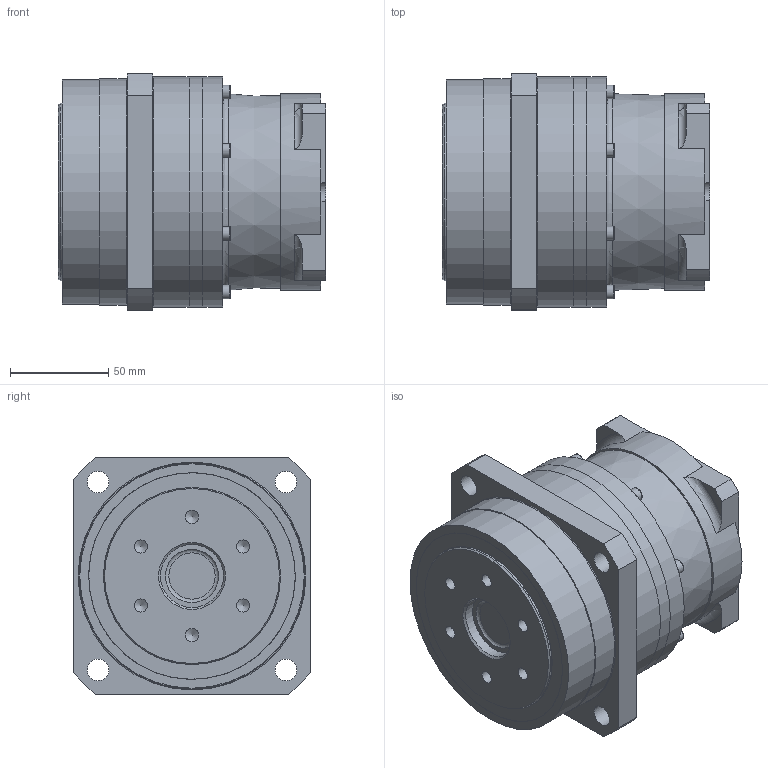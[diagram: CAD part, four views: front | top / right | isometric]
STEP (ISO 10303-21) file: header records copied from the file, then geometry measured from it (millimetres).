
FILE_DESCRIPTION(/* description */ ('ANFX-P130F-2-7S'),/* implementation_level */ '2;1');
FILE_NAME(/* name */ 'C:\Users\ADMINI~1\AppData\Local\Temp\MM582274_ANFX-P130F-2-7S.stp',/* time_stamp */ '2018-06-20T10:13:52+02:00',/* author */ ('Max'),/* organization */ (''),/* preprocessor_version */ 'ST-DEVELOPER v17',/* originating_system */ 'Autodesk Inventor 2018',/* authorisation */ '');
FILE_SCHEMA (('AUTOMOTIVE_DESIGN { 1 0 10303 214 3 1 1 }'));
Length unit declared in the file: millimetre
Products named in the file (17): MM579206; MMBG0004078; MMCL445LG; MMCM226LG; MAX4841G; MAW8388G; MMBG0004105; MMCH509LG; 5006008RS---G; 009M004R025NG; M530A406212--G; MMAQ1008G; 213066; MMAP3262G; MMCH633LG; 204123; MAW8386G
Assembly tree (26 placements, depth 3):
  MM579206
    MMBG0004078
      MMCL445LG
      MMCM226LG
      MAX4841G
      MAW8388G
    MMBG0004105
      MMCH509LG
      5006008RS---G
      009M004R025NG  x8
      M530A406212--G
      MMAQ1008G
      213066
      MMAP3262G
    MMCH633LG
    204123  x4
    MAW8386G
Bounding box: 136 x 120 x 120 mm (x, y, z)
Volume: 831623.3 mm3; surface area: 260005.1 mm2
Topology: 83 solids, 84 shells, 564 faces, 1610 edges, 1155 vertices
Faces by surface type: plane 222, cylinder 175, cone 66, sphere 58, torus 43
Full cylindrical faces by diameter (mm): 2 x1, 3.242 x12, 4 x8, 4.134 x5, 4.5 x16, 4.917 x8, 5 x1, 5.5 x1, 6 x4, 6.6 x4, 6.647 x6, 7 x8, 8.5 x1, 9.8 x1, 10 x5, 10.2 x1, 10.4 x1, 11 x8, 12 x1, 19.5 x1, 28 x2, 32 x1, 35 x1, 38 x1, 39.4 x1, 39.6 x1, 40 x2, 42 x2, 45 x1, 45.28 x1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
Entity records: 15257 total; most frequent: CARTESIAN_POINT 2864, DIRECTION 2728, ORIENTED_EDGE 2190, AXIS2_PLACEMENT_3D 1210, EDGE_CURVE 1095, VERTEX_POINT 895, CIRCLE 743, EDGE_LOOP 582
